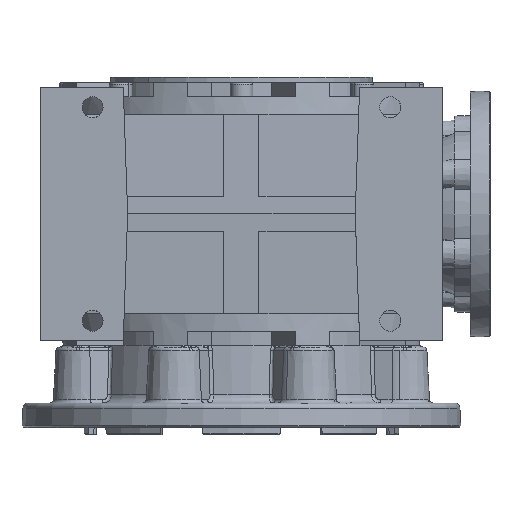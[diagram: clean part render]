
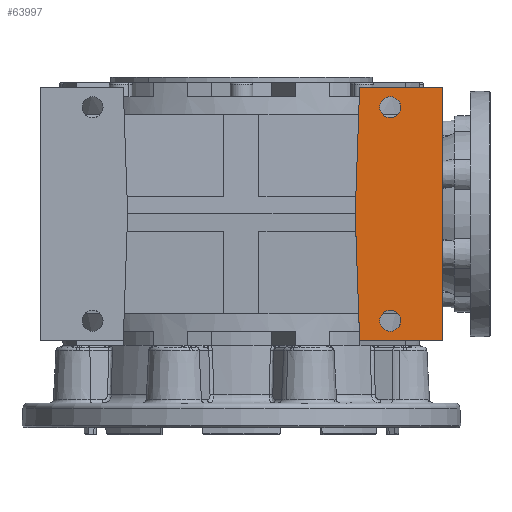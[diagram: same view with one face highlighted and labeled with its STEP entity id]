
A CAD part, front view. The second image highlights one B-rep face of the part: STEP entity #63997.
In plain terms, the highlighted planar face has unit normal (0, -1, 0).
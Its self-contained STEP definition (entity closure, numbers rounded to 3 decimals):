
#976 = ORIENTED_EDGE ( 'NONE', *, *, #44106, .F. ) ;
#2417 = CARTESIAN_POINT ( 'NONE',  ( 65., -165., 0. ) ) ;
#2662 = EDGE_CURVE ( 'NONE', #48358, #65717, #24252, .T. ) ;
#4187 = DIRECTION ( 'NONE',  ( 1., 0., 0. ) ) ;
#5690 = CARTESIAN_POINT ( 'NONE',  ( 115., -165., -78. ) ) ;
#7437 = VERTEX_POINT ( 'NONE', #66562 ) ;
#8566 = CARTESIAN_POINT ( 'NONE',  ( 85., -165., 61. ) ) ;
#8888 = VECTOR ( 'NONE', #46391, 1000. ) ;
#9063 = DIRECTION ( 'NONE',  ( -0.035, 0., 0.999 ) ) ;
#10116 = ORIENTED_EDGE ( 'NONE', *, *, #52649, .F. ) ;
#10391 = CARTESIAN_POINT ( 'NONE',  ( 85., -165., -61. ) ) ;
#10833 = DIRECTION ( 'NONE',  ( 0., -1., 0. ) ) ;
#12337 = CIRCLE ( 'NONE', #16363, 6. ) ;
#12462 = CARTESIAN_POINT ( 'NONE',  ( 85., -165., 61. ) ) ;
#12470 = CARTESIAN_POINT ( 'NONE',  ( 67.514, -165., -72. ) ) ;
#13458 = DIRECTION ( 'NONE',  ( -1., 0., 0. ) ) ;
#15299 = CARTESIAN_POINT ( 'NONE',  ( 65., -165., 0. ) ) ;
#15412 = FACE_BOUND ( 'NONE', #51114, .T. ) ;
#15799 = VERTEX_POINT ( 'NONE', #65457 ) ;
#16363 = AXIS2_PLACEMENT_3D ( 'NONE', #8566, #27654, #20588 ) ;
#16689 = EDGE_CURVE ( 'NONE', #48358, #7437, #52611, .T. ) ;
#17947 = VERTEX_POINT ( 'NONE', #21825 ) ;
#18407 = VERTEX_POINT ( 'NONE', #22958 ) ;
#18723 = ORIENTED_EDGE ( 'NONE', *, *, #43719, .F. ) ;
#20588 = DIRECTION ( 'NONE',  ( 1., 0., 0. ) ) ;
#21223 = FACE_OUTER_BOUND ( 'NONE', #58885, .T. ) ;
#21801 = EDGE_CURVE ( 'NONE', #15799, #17947, #45116, .T. ) ;
#21825 = CARTESIAN_POINT ( 'NONE',  ( 79., -165., -61. ) ) ;
#22465 = FACE_BOUND ( 'NONE', #26743, .T. ) ;
#22921 = CARTESIAN_POINT ( 'NONE',  ( 115., -165., 72. ) ) ;
#22958 = CARTESIAN_POINT ( 'NONE',  ( 91., -165., 61. ) ) ;
#23195 = VECTOR ( 'NONE', #67429, 1000. ) ;
#23636 = EDGE_CURVE ( 'NONE', #74121, #65717, #75008, .T. ) ;
#24252 = LINE ( 'NONE', #43321, #23195 ) ;
#25839 = ORIENTED_EDGE ( 'NONE', *, *, #21801, .F. ) ;
#26248 = VECTOR ( 'NONE', #9063, 1000. ) ;
#26743 = EDGE_LOOP ( 'NONE', ( #25839, #53339 ) ) ;
#26788 = ORIENTED_EDGE ( 'NONE', *, *, #62185, .F. ) ;
#27654 = DIRECTION ( 'NONE',  ( 0., -1., 0. ) ) ;
#29162 = CIRCLE ( 'NONE', #74247, 6. ) ;
#34691 = CIRCLE ( 'NONE', #58507, 6. ) ;
#35507 = VERTEX_POINT ( 'NONE', #12470 ) ;
#35712 = DIRECTION ( 'NONE',  ( 0., -1., 0. ) ) ;
#40337 = PLANE ( 'NONE',  #67813 ) ;
#40622 = LINE ( 'NONE', #15299, #26248 ) ;
#40736 = DIRECTION ( 'NONE',  ( 1., 0., 0. ) ) ;
#41021 = VERTEX_POINT ( 'NONE', #46849 ) ;
#41096 = ORIENTED_EDGE ( 'NONE', *, *, #23636, .T. ) ;
#41833 = EDGE_CURVE ( 'NONE', #17947, #15799, #34691, .T. ) ;
#42759 = CARTESIAN_POINT ( 'NONE',  ( 85., -165., -61. ) ) ;
#43321 = CARTESIAN_POINT ( 'NONE',  ( -115., -165., 72. ) ) ;
#43719 = EDGE_CURVE ( 'NONE', #18407, #41021, #12337, .T. ) ;
#44106 = EDGE_CURVE ( 'NONE', #74121, #35507, #65323, .T. ) ;
#45116 = CIRCLE ( 'NONE', #57026, 6. ) ;
#46391 = DIRECTION ( 'NONE',  ( -0.035, 0., -0.999 ) ) ;
#46849 = CARTESIAN_POINT ( 'NONE',  ( 79., -165., 61. ) ) ;
#48358 = VERTEX_POINT ( 'NONE', #70480 ) ;
#50252 = ORIENTED_EDGE ( 'NONE', *, *, #16689, .T. ) ;
#51114 = EDGE_LOOP ( 'NONE', ( #18723, #10116 ) ) ;
#52611 = LINE ( 'NONE', #2417, #8888 ) ;
#52649 = EDGE_CURVE ( 'NONE', #41021, #18407, #29162, .T. ) ;
#53339 = ORIENTED_EDGE ( 'NONE', *, *, #41833, .F. ) ;
#54080 = DIRECTION ( 'NONE',  ( 1., 0., 0. ) ) ;
#54435 = CARTESIAN_POINT ( 'NONE',  ( 115., -165., -72. ) ) ;
#55704 = VECTOR ( 'NONE', #75829, 1000. ) ;
#57026 = AXIS2_PLACEMENT_3D ( 'NONE', #10391, #35712, #4187 ) ;
#58507 = AXIS2_PLACEMENT_3D ( 'NONE', #42759, #80955, #54080 ) ;
#58885 = EDGE_LOOP ( 'NONE', ( #41096, #75131, #50252, #26788, #976 ) ) ;
#61834 = DIRECTION ( 'NONE',  ( 1., 0., 0. ) ) ;
#62185 = EDGE_CURVE ( 'NONE', #35507, #7437, #40622, .T. ) ;
#63997 = ADVANCED_FACE ( 'NONE', ( #15412, #22465, #21223 ), #40337, .T. ) ;
#65323 = LINE ( 'NONE', #70727, #72009 ) ;
#65457 = CARTESIAN_POINT ( 'NONE',  ( 91., -165., -61. ) ) ;
#65648 = DIRECTION ( 'NONE',  ( 0., -1., 0. ) ) ;
#65717 = VERTEX_POINT ( 'NONE', #22921 ) ;
#66562 = CARTESIAN_POINT ( 'NONE',  ( 65., -165., 0. ) ) ;
#67429 = DIRECTION ( 'NONE',  ( 1., 0., 0. ) ) ;
#67813 = AXIS2_PLACEMENT_3D ( 'NONE', #73117, #65648, #40736 ) ;
#70480 = CARTESIAN_POINT ( 'NONE',  ( 67.514, -165., 72. ) ) ;
#70727 = CARTESIAN_POINT ( 'NONE',  ( 100., -165., -72. ) ) ;
#72009 = VECTOR ( 'NONE', #13458, 1000. ) ;
#73117 = CARTESIAN_POINT ( 'NONE',  ( -115., -165., -78. ) ) ;
#74121 = VERTEX_POINT ( 'NONE', #54435 ) ;
#74247 = AXIS2_PLACEMENT_3D ( 'NONE', #12462, #10833, #61834 ) ;
#75008 = LINE ( 'NONE', #5690, #55704 ) ;
#75131 = ORIENTED_EDGE ( 'NONE', *, *, #2662, .F. ) ;
#75829 = DIRECTION ( 'NONE',  ( 0., 0., 1. ) ) ;
#80955 = DIRECTION ( 'NONE',  ( 0., -1., 0. ) ) ;
